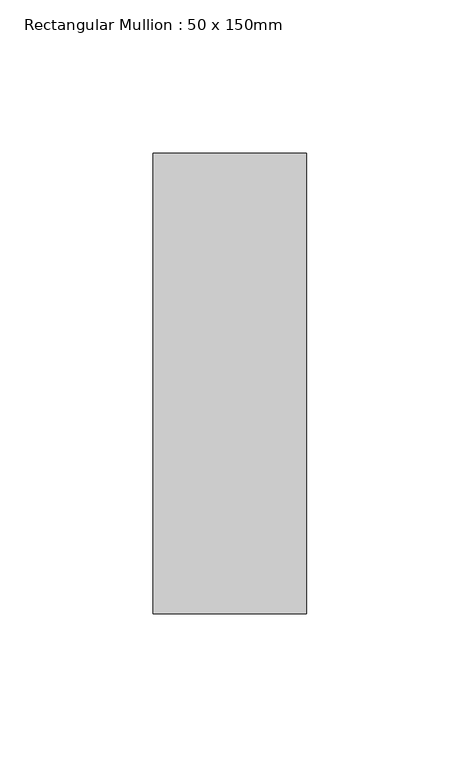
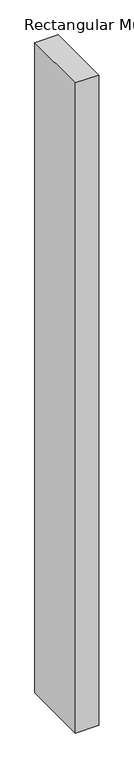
"""IFC4 building model written with IfcOpenShell, lengths in millimetres: member geometry, Rectangular Mullion : 50 x 150mm."""

from ifc_helpers import new_model, si_unit, frame, origin, place, context, project, spatial, polyline, outline, extrude, source, transform, mapped, element, save


def rectangular_mullion_50_x_150mm_7423dbc6(model_context):
    return source(origin(), model_context, "Body", "SweptSolid", [
        extrude(outline(polyline([(0.0, 0.0), (0.0540095, -50.0), (-1470.1360033, -50.0), (-1470.0286502, 0.0), (0.0, 0.0)])), frame((0.0, -75.0, 0.0), z_axis=(0.0, 1.0, 0.0), x_axis=(0.0, 0.0, 1.0)), (0.0, 0.0, 1.0), 150.0),
    ])


if __name__ == "__main__":
    model = new_model("IFC4")
    model_context = context("Model", 3, world=origin())
    ifc_project = project(units=[si_unit("LENGTHUNIT", "METRE", prefix="MILLI")], contexts=[model_context])
    site = spatial("IfcSite", under=ifc_project)
    building = spatial("IfcBuilding", under=site)
    placement = place(None, origin())
    rectangular_mullion_50_x_150mm_shape = rectangular_mullion_50_x_150mm_7423dbc6(model_context)
    element("IfcMember", 1, ObjectType="Rectangular Mullion : 50 x 150mm", at=placement, inside=building, context=model_context, shape_type="MappedRepresentation", body=[
        mapped(rectangular_mullion_50_x_150mm_shape, transform((0.0, 0.0, 0.0), x_axis=(1.0, 0.0, 0.0), y_axis=(0.0, 1.0, 0.0), z_axis=(0.0, 0.0, 1.0))),
    ])
    save(model, "model.ifc")
